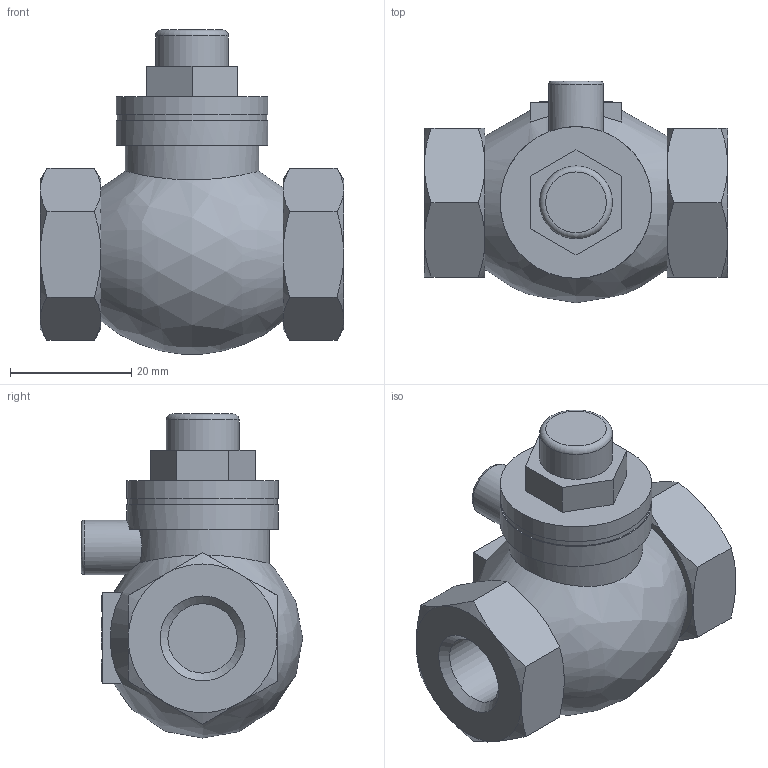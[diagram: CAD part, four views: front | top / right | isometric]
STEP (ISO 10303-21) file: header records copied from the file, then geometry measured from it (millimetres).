
FILE_DESCRIPTION(/* description */ ('Eriks item no: 11811319'),/* implementation_level */ '2;1');
FILE_NAME(/* name */ 'L:\DATA\ENG\Inventor\Econ 3D modellen\terugslagklep\500\500-008-PN16-PTFE.stp',/* time_stamp */ '2023-12-06T15:58:52+01:00',/* author */ ('roger.thijssen'),/* organization */ (''),/* preprocessor_version */ 'ST-DEVELOPER v18',/* originating_system */ 'Autodesk Inventor 2020',/* authorisation */ '');
FILE_SCHEMA (('CONFIG_CONTROL_DESIGN'));
Length unit declared in the file: millimetre
Products named in the file (1): Check valve, 500-008-PN16-PTFE
Bounding box: 50 x 36.5 x 53.43 mm (x, y, z)
Volume: 36593 mm3; surface area: 8617.4 mm2
Topology: 1 solids, 1 shells, 230 faces, 588 edges, 388 vertices
Faces by surface type: plane 141, bspline 40, cone 26, cylinder 21, torus 2
Full cylindrical faces by diameter (mm): 9 x1, 11.445 x2, 12 x1, 24.6 x1, 25 x2
Entity records: 7397 total; most frequent: CARTESIAN_POINT 2083, ORIENTED_EDGE 1176, DIRECTION 926, EDGE_CURVE 588, VERTEX_POINT 388, LINE 362, VECTOR 362, AXIS2_PLACEMENT_3D 282
